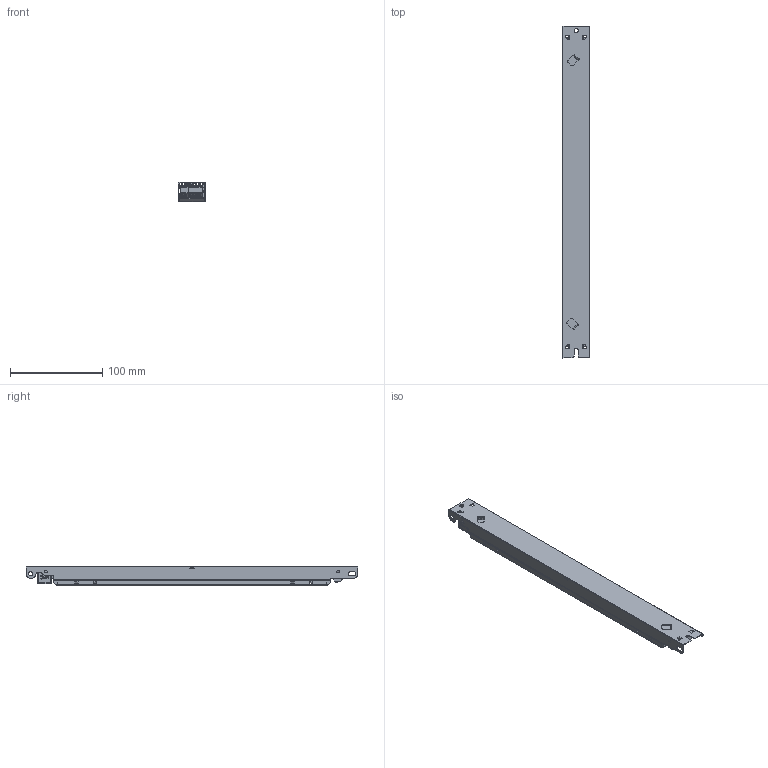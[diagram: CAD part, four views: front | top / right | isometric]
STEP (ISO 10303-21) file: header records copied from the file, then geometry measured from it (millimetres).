
FILE_DESCRIPTION (( 'STEP AP203' ), '1' );
FILE_NAME ('LL50iC-DA-100-1200.STEP', '2019-12-02T10:30:10', ( '' ), ( '' ), 'SwSTEP 2.0', 'SolidWorks 2014', '' );
FILE_SCHEMA (( 'CONFIG_CONTROL_DESIGN' ));
Length unit declared in the file: millimetre
Products named in the file (1): LL50iC-DA-100-1200
Bounding box: 30.28 x 360 x 20.9 mm (x, y, z)
Volume: 38803.1 mm3; surface area: 96999.1 mm2
Topology: 8 solids, 8 shells, 1412 faces, 3870 edges, 2513 vertices
Faces by surface type: plane 904, cylinder 406, bspline 39, torus 31, cone 24, sphere 8
Entity records: 45563 total; most frequent: CARTESIAN_POINT 9765, ORIENTED_EDGE 7730, DIRECTION 7059, EDGE_CURVE 3865, LINE 2715, VECTOR 2715, VERTEX_POINT 2510, AXIS2_PLACEMENT_3D 2172
